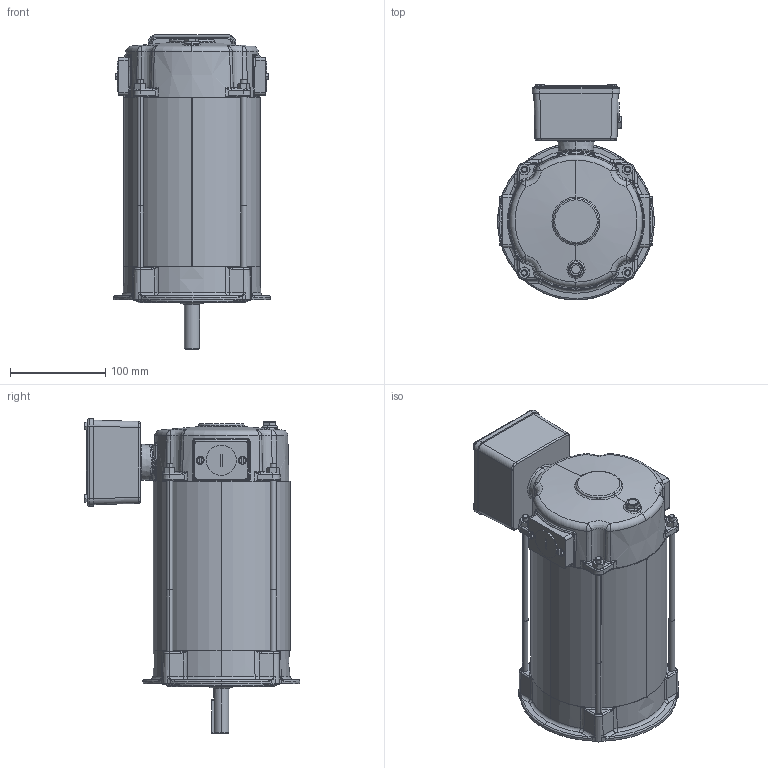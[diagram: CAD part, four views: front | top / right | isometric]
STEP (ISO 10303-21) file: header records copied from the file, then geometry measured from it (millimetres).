
FILE_DESCRIPTION (( 'STEP AP203' ), '1' );
FILE_NAME ('031790-US56C_Rev01.STEP', '2017-07-07T19:03:45', ( 'admin' ), ( '' ), 'SwSTEP 2.0', 'SolidWorks 2015', '' );
FILE_SCHEMA (( 'CONFIG_CONTROL_DESIGN' ));
Length unit declared in the file: inch
Products named in the file (1): 031790-US56C_Rev01
Bounding box: 164.99 x 226.59 x 330.82 mm (x, y, z)
Volume: 1015923 mm3; surface area: 493435.8 mm2
Topology: 44 solids, 44 shells, 2214 faces, 5197 edges, 3058 vertices
Faces by surface type: cylinder 533, bspline 533, plane 469, cone 386, torus 255, sphere 38
Entity records: 89042 total; most frequent: CARTESIAN_POINT 42563, ORIENTED_EDGE 10210, DIRECTION 9076, EDGE_CURVE 5105, AXIS2_PLACEMENT_3D 3837, VERTEX_POINT 3058, EDGE_LOOP 2375, FACE_OUTER_BOUND 2214
